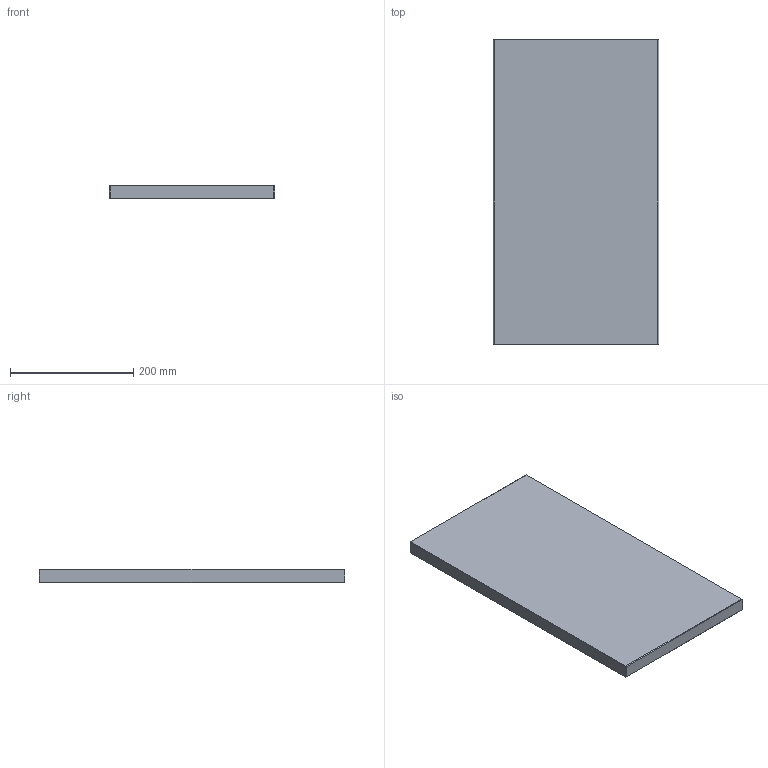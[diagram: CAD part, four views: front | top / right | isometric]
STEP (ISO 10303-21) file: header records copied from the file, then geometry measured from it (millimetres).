
FILE_DESCRIPTION (( 'STEP AP214' ), '1' );
FILE_NAME ('CPE-P-396x496x22.STEP', '2021-03-25T14:00:58', ( '' ), ( '' ), 'SwSTEP 2.0', 'SolidWorks 2018', '' );
FILE_SCHEMA (( 'AUTOMOTIVE_DESIGN' ));
Length unit declared in the file: millimetre
Products named in the file (1): CPE-P-396x496x22
Bounding box: 268 x 496 x 22 mm (x, y, z)
Volume: 2922849.3 mm3; surface area: 297627.3 mm2
Topology: 1 solids, 1 shells, 26 faces, 48 edges, 24 vertices
Faces by surface type: plane 26
Entity records: 634 total; most frequent: DIRECTION 102, CARTESIAN_POINT 99, ORIENTED_EDGE 96, EDGE_CURVE 48, VECTOR 48, LINE 48, AXIS2_PLACEMENT_3D 27, FACE_OUTER_BOUND 26
